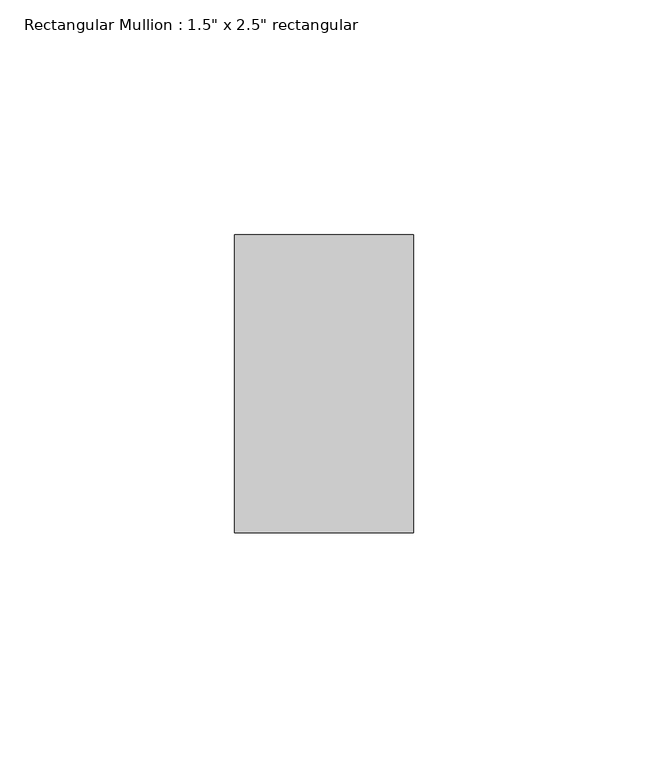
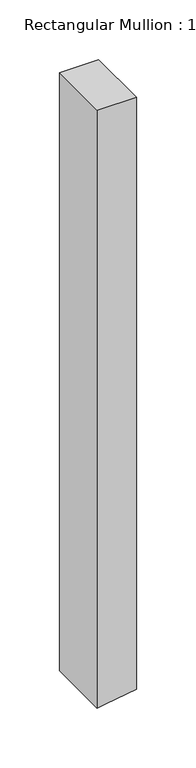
"""IFC4 building model written with IfcOpenShell, lengths in millimetres: member geometry."""

import ifcopenshell
import ifcopenshell.guid

model = None  # the IFC model being written
_history = None  # IfcOwnerHistory: only IFC2X3 demands one
_inside = {}  # id of a spatial element -> (the spatial element, [elements in it])
_under = {}  # id of a project, library or spatial element -> (it, [spatial elements below it])
_declared = {}  # id of a project -> (the project, [libraries it declares])
_typed = {}  # id of a type object -> (the type object, [elements of that type])
_made_of = {}  # id of a material, layer set ... -> (it, [elements and type objects made of it])


def new_model(schema):
    """Start an empty IFC model of exactly this schema.

    Asked for "IFC4X3", IfcOpenShell would pick the latest addendum, in which some entities
    have other attributes; the version numbers below select the first issue.
    IFC2X3 requires an IfcOwnerHistory on every rooted entity: one is made here for all.
    """
    global model, _history
    if schema == "IFC4X3":
        model = ifcopenshell.file(schema_version=(4, 3, 0, 0))
    else:
        model = ifcopenshell.file(schema=schema)
    _inside.clear()
    _under.clear()
    _declared.clear()
    _typed.clear()
    _made_of.clear()
    _history = None
    if model.schema == "IFC2X3":
        org = make("IfcOrganization", Name="unknown")
        user = make(
            "IfcPersonAndOrganization",
            ThePerson=make("IfcPerson", FamilyName="unknown"),
            TheOrganization=org,
        )
        app = make(
            "IfcApplication",
            ApplicationDeveloper=org,
            Version="unknown",
            ApplicationFullName="unknown",
            ApplicationIdentifier="unknown",
        )
        _history = make(
            "IfcOwnerHistory",
            OwningUser=user,
            OwningApplication=app,
            ChangeAction="ADDED",
            CreationDate=0,
        )
    return model


def make(cls, **values):
    """One entity of the class cls with the attributes given. An attribute that is None is left unset."""
    return model.create_entity(
        cls, **{name: value for name, value in values.items() if value is not None}
    )


def rooted(cls, **values):
    """An entity with a GlobalId (a new one), such as an element, a storey or a relation."""
    return make(cls, GlobalId=ifcopenshell.guid.new(), OwnerHistory=_history, **values)


def si_unit(unit_type, name, prefix=None):
    """IfcSIUnit, for example si_unit("LENGTHUNIT", "METRE", prefix="MILLI")."""
    return make("IfcSIUnit", UnitType=unit_type, Prefix=prefix, Name=name)


def assignment(units):
    """IfcUnitAssignment: the units of a project."""
    return None if units is None else make("IfcUnitAssignment", Units=units)


def point(xyz):
    """IfcCartesianPoint."""
    return None if xyz is None else make("IfcCartesianPoint", Coordinates=xyz)


def direction(xyz):
    """IfcDirection."""
    return None if xyz is None else make("IfcDirection", DirectionRatios=xyz)


def frame(location, z_axis=None, x_axis=None):
    """IfcAxis2Placement3D, a coordinate frame: its origin and axes. An axis left out is left unset."""
    return make(
        "IfcAxis2Placement3D",
        Location=point(location),
        Axis=direction(z_axis),
        RefDirection=direction(x_axis),
    )


def origin():
    """The frame at (0, 0, 0) with its axes left unset."""
    return frame((0.0, 0.0, 0.0))


def place(relative_to, where):
    """IfcLocalPlacement: puts the frame where relative to a parent placement (None: the world)."""
    return make(
        "IfcLocalPlacement", PlacementRelTo=relative_to, RelativePlacement=where
    )


def context(
    kind, dimensions, precision=None, world=None, true_north=None, identifier=None
):
    """IfcGeometricRepresentationContext, for example the 3D "Model" context."""
    return make(
        "IfcGeometricRepresentationContext",
        ContextIdentifier=identifier,
        ContextType=kind,
        CoordinateSpaceDimension=dimensions,
        Precision=precision,
        WorldCoordinateSystem=world,
        TrueNorth=true_north,
    )


def project(units=None, contexts=None):
    """IfcProject with its units and contexts."""
    return rooted(
        "IfcProject",
        Name="project",
        RepresentationContexts=contexts,
        UnitsInContext=assignment(units),
    )


def spatial(cls, under=None, at=None, **own):
    """A site, building, storey or space (cls), placed at a placement, below another one or the project."""
    s = rooted(cls, ObjectPlacement=at, **own)
    if under is not None:
        _under.setdefault(under.id(), (under, []))[1].append(s)
    return s


def polyline(points):
    """IfcPolyline through the points."""
    return make("IfcPolyline", Points=[point(p) for p in points])


def outline(outer, holes=None, kind="AREA"):
    """IfcArbitraryClosedProfileDef: a profile drawn as a closed curve; with holes, ...WithVoids."""
    if holes is None:
        return make("IfcArbitraryClosedProfileDef", ProfileType=kind, OuterCurve=outer)
    return make(
        "IfcArbitraryProfileDefWithVoids",
        ProfileType=kind,
        OuterCurve=outer,
        InnerCurves=holes,
    )


def extrude(swept, where, along, depth):
    """IfcExtrudedAreaSolid: the profile swept, set in the frame where, extruded along a direction by depth."""
    return make(
        "IfcExtrudedAreaSolid",
        SweptArea=swept,
        Position=where,
        ExtrudedDirection=direction(along),
        Depth=depth,
    )


def shape(context_of_items, identifier, shape_type, items):
    """IfcShapeRepresentation: the items that make up one representation, for example the "Body"."""
    return make(
        "IfcShapeRepresentation",
        ContextOfItems=context_of_items,
        RepresentationIdentifier=identifier,
        RepresentationType=shape_type,
        Items=items,
    )


def source(mapping_origin, context_of_items, identifier, shape_type, items):
    """IfcRepresentationMap: a shape defined once, which mapped items show again and again."""
    return make(
        "IfcRepresentationMap",
        MappingOrigin=mapping_origin,
        MappedRepresentation=shape(context_of_items, identifier, shape_type, items),
    )


def transform(
    local_origin,
    x_axis=None,
    y_axis=None,
    z_axis=None,
    scale=None,
    scale2=None,
    scale3=None,
    uniform=True,
):
    """IfcCartesianTransformationOperator3D, or its non-uniform kind. x_axis, y_axis, z_axis: its Axis1, 2, 3."""
    if uniform:
        return make(
            "IfcCartesianTransformationOperator3D",
            Axis1=direction(x_axis),
            Axis2=direction(y_axis),
            LocalOrigin=point(local_origin),
            Scale=scale,
            Axis3=direction(z_axis),
        )
    return make(
        "IfcCartesianTransformationOperator3DnonUniform",
        Axis1=direction(x_axis),
        Axis2=direction(y_axis),
        LocalOrigin=point(local_origin),
        Scale=scale,
        Axis3=direction(z_axis),
        Scale2=scale2,
        Scale3=scale3,
    )


def mapped(mapping_source, mapping_target):
    """IfcMappedItem: shows the shape of a source again, moved by a transform."""
    return make(
        "IfcMappedItem", MappingSource=mapping_source, MappingTarget=mapping_target
    )


def made_of(thing, what):
    """Note that an element or type object is made of a material, layer set ...; save() writes the relation."""
    if what is not None:
        _made_of.setdefault(what.id(), (what, []))[1].append(thing)
    return thing


def element(
    cls,
    number,
    at=None,
    inside=None,
    cuts=None,
    type_object=None,
    material=None,
    context=None,
    identifier="Body",
    shape_type=None,
    held_by="IfcProductDefinitionShape",
    body=None,
    shapes=None,
    **own,
):
    """One element of the class cls, such as IfcWall. Its Tag is "e" and its number.

    at: its placement. inside: the storey or other place that contains it. cuts: it is an
    opening in that element (IfcRelVoidsElement). A single representation is given by context,
    identifier, shape_type and body (its items); several are given by shapes. held_by: the class
    of the entity that holds the representations. save() writes the other relations.
    """
    e = rooted(cls, Tag="e%d" % number, ObjectPlacement=at, **own)
    if body is not None:
        shapes = [shape(context, identifier, shape_type, body)]
    if shapes is not None:
        e.Representation = make(held_by, Representations=shapes)
    if inside is not None:
        _inside.setdefault(inside.id(), (inside, []))[1].append(e)
    if cuts is not None:
        rooted(
            "IfcRelVoidsElement", RelatingBuildingElement=cuts, RelatedOpeningElement=e
        )
    if type_object is not None:
        _typed.setdefault(type_object.id(), (type_object, []))[1].append(e)
    return made_of(e, material)


def aggregate(whole, parts):
    """IfcRelAggregates: a whole, such as a stair, and the parts it consists of."""
    return rooted("IfcRelAggregates", RelatingObject=whole, RelatedObjects=parts)


def save(model, path):
    """Write the relations noted so far, then the file.

    IfcRelAggregates (storeys below a building ...), IfcRelContainedInSpatialStructure (elements
    in a storey), IfcRelDefinesByType, IfcRelAssociatesMaterial and IfcRelDeclares: one each for
    every whole, place, type object, material and project.
    """
    for whole, parts in _under.values():
        aggregate(whole, parts)
    for where, things in _inside.values():
        rooted(
            "IfcRelContainedInSpatialStructure",
            RelatedElements=things,
            RelatingStructure=where,
        )
    for kind, things in _typed.values():
        rooted("IfcRelDefinesByType", RelatedObjects=things, RelatingType=kind)
    for what, things in _made_of.values():
        rooted("IfcRelAssociatesMaterial", RelatedObjects=things, RelatingMaterial=what)
    for by, libraries in _declared.values():
        rooted("IfcRelDeclares", RelatingContext=by, RelatedDefinitions=libraries)
    model.write(path)


def member_232b107b(model_context):
    return source(origin(), model_context, "Body", "SweptSolid", [
        extrude(outline(polyline([(0.0, 19.05), (0.0, -19.05), (-613.843099, -19.05), (-612.2984019, -11.2673813), (-607.3816085, 19.05), (0.0, 19.05)])), frame((0.0, -31.75, 0.0), z_axis=(0.0, 1.0, 0.0), x_axis=(0.0, 0.0, 1.0)), (0.0, 0.0, 1.0), 63.5),
    ])


if __name__ == "__main__":
    model = new_model("IFC4")
    model_context = context("Model", 3, world=origin())
    ifc_project = project(units=[si_unit("LENGTHUNIT", "METRE", prefix="MILLI")], contexts=[model_context])
    site = spatial("IfcSite", under=ifc_project)
    building = spatial("IfcBuilding", under=site)
    placement = place(None, origin())
    member_shape = member_232b107b(model_context)
    element("IfcMember", 1, ObjectType="Rectangular Mullion : 1.5\" x 2.5\" rectangular", at=placement, inside=building, context=model_context, shape_type="MappedRepresentation", body=[
        mapped(member_shape, transform((0.0, 0.0, 0.0), x_axis=(1.0, 0.0, 0.0), y_axis=(0.0, 1.0, 0.0), z_axis=(0.0, 0.0, 1.0))),
    ])
    save(model, "model.ifc")
